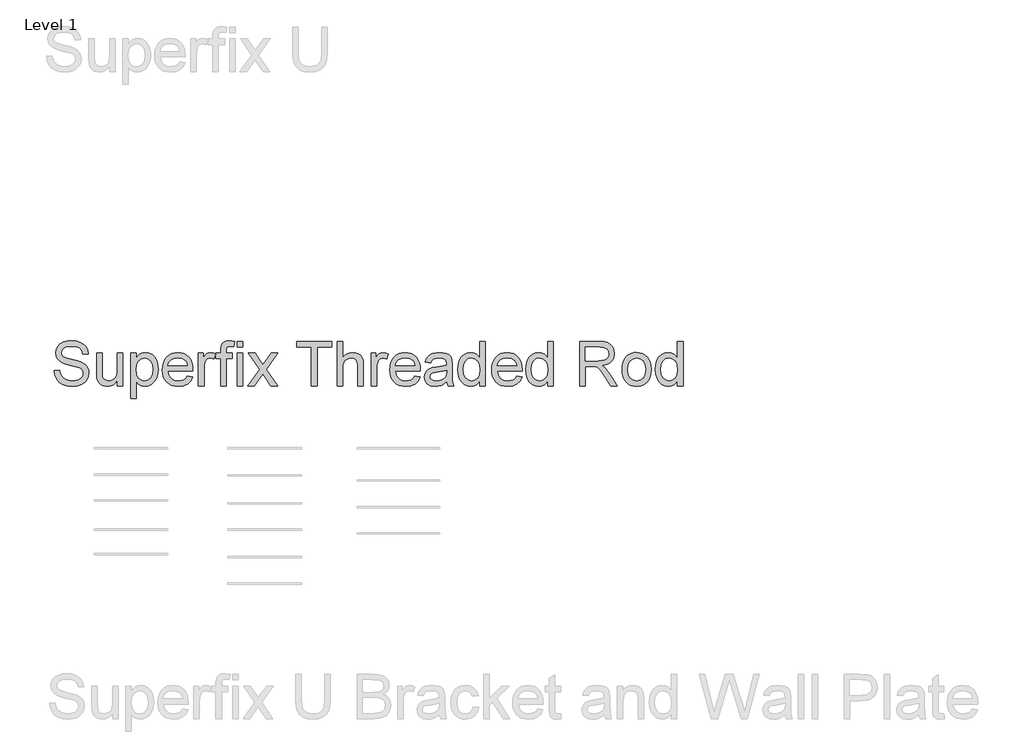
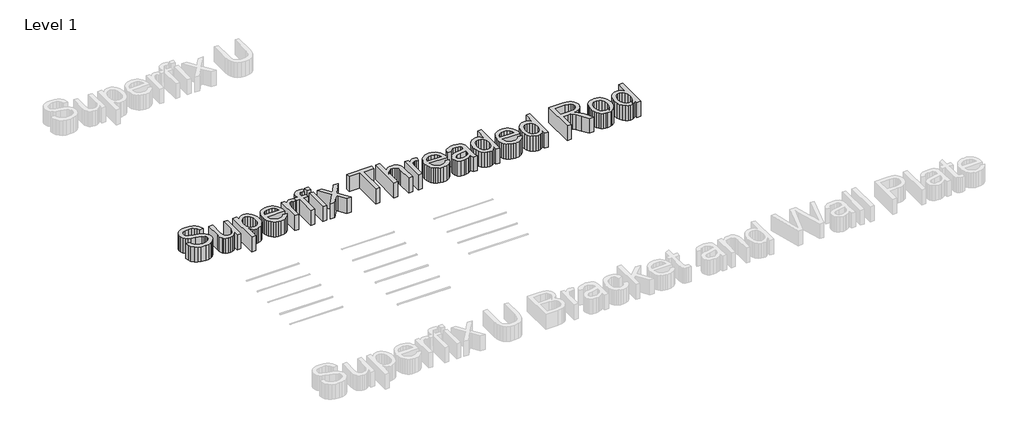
# One storey, part 24 of 32: 1 proxy.
"""IFC4 building model written with IfcOpenShell, lengths in millimetres."""

from ifc_helpers import new_model, si_unit, origin, origin_with_axes, place, context, project, spatial, polyline, outline, extrude, element, save

model = new_model("IFC4")

# Units and contexts
model_context = context("Model", 3, world=origin())
ifc_project = project(units=[si_unit("LENGTHUNIT", "METRE", prefix="MILLI")], contexts=[model_context])

# Site, building, storey
site = spatial("IfcSite", under=ifc_project)
building = spatial("IfcBuilding", under=site)
storey = spatial("IfcBuildingStorey", under=building, Name="Level 1", Elevation=0.0)

# Proxy
placement = place(None, origin())
element("IfcBuildingElementProxy", 1, Name="300mm Arial 2", ObjectType="300mm Arial 2", at=placement, inside=storey, context=model_context, shape_type="SweptSolid", body=[
    extrude(outline(polyline([(-40399.8763548, 22951.8327334), (-40362.2052385, 22951.8327334), (-40357.8826251, 22930.927839), (-40350.0651327, 22914.1248289), (-40337.8698445, 22900.7891066), (-40320.4138439, 22890.2860756), (-40299.0766881, 22883.4710616), (-40275.2379349, 22881.1993903), (-40254.250267, 22882.9192387), (-40235.8745614, 22888.0787836), (-40220.9845376, 22896.2457639), (-40210.4539155, 22906.9879182), (-40204.1907245, 22919.3211621), (-40202.1029942, 22932.2614113), (-40203.6664927, 22944.8705666), (-40208.3569881, 22955.7690707), (-40217.8851318, 22965.0672882), (-40233.961575, 22972.8755835), (-40288.8127805, 22987.2597695), (-40324.8192308, 22996.7787162), (-40347.8578407, 23005.8378103), (-40366.6106254, 23018.511345), (-40379.9003625, 23033.8704183), (-40387.8190224, 23051.5839364), (-40390.4585757, 23071.3208054), (-40387.193623, 23093.3845281), (-40377.3987649, 23113.9583287), (-40361.3315188, 23131.3959352), (-40339.249402, 23144.0510759), (-40312.7435043, 23151.7490066), (-40283.4049151, 23154.3149835), (-40251.6199108, 23151.629445), (-40223.8080319, 23143.5728293), (-40200.96256, 23130.3106834), (-40184.0767765, 23112.0085541), (-40173.3898045, 23089.8068757), (-40169.1407674, 23064.8460823), (-40206.8118838, 23064.8460823), (-40213.7280653, 23087.3236722), (-40228.1490395, 23103.5472682), (-40250.6818117, 23113.3697175), (-40281.9333872, 23116.6438672), (-40313.9207266, 23113.4065057), (-40335.8648877, 23103.694421), (-40348.5568165, 23089.4022055), (-40352.7874594, 23072.4244514), (-40349.7892212, 23057.9482949), (-40340.7945064, 23046.3048298), (-40319.5309271, 23035.8937693), (-40279.2846368, 23025.2619796), (-40237.7507595, 23015.1636189), (-40212.6244193, 23006.3528451), (-40191.1493078, 22992.686029), (-40176.1673136, 22975.8186395), (-40167.3657368, 22955.9346176), (-40164.4318779, 22933.2179044), (-40167.8071952, 22909.9953535), (-40177.9331471, 22888.15236), (-40194.3958664, 22869.3535901), (-40216.7814858, 22855.2637097), (-40243.7012508, 22846.4621329), (-40273.7664069, 22843.528274), (-40310.674168, 22846.6920592), (-40341.0520238, 22856.1834147), (-40365.249462, 22872.0391286), (-40383.6159706, 22894.2959894), (-40395.4065886, 22921.4088924), (-40399.8763548, 22951.8327334)])), origin_with_axes(), (0.0, 0.0, 1.0), 150.0),
    extrude(outline(polyline([(-39971.3674068, 22848.2371636), (-39971.3674068, 22886.2761619), (-39984.9974348, 22867.5739609), (-40000.8715429, 22854.215246), (-40018.9897311, 22846.200017), (-40039.3519995, 22843.528274), (-40057.7001141, 22845.4044722), (-40074.7790357, 22851.0330667), (-40089.1080394, 22859.4943526), (-40099.2064002, 22869.8686249), (-40110.426801, 22897.6069273), (-40112.634093, 22932.6292933), (-40112.634093, 23069.5549719), (-40074.9629767, 23069.5549719), (-40074.9629767, 22950.3612054), (-40072.6821083, 22911.9543251), (-40067.1914695, 22899.1428346), (-40057.7828875, 22889.4031588), (-40045.0817616, 22883.2503324), (-40029.7134913, 22881.1993903), (-40013.4623041, 22883.2963177), (-39998.2595807, 22889.5870998), (-39985.7240017, 22899.4923225), (-39977.474248, 22912.4325717), (-39972.8941171, 22930.1552868), (-39971.3674068, 22954.4079074), (-39971.3674068, 23069.5549719), (-39933.6962905, 23069.5549719), (-39933.6962905, 22848.2371636), (-39971.3674068, 22848.2371636)])), origin_with_axes(), (0.0, 0.0, 1.0), 150.0),
    extrude(outline(polyline([(-39881.8985056, 22763.4771519), (-39881.8985056, 23069.5549719), (-39844.2273893, 23069.5549719), (-39844.2273893, 23032.6196195), (-39831.9401307, 23050.8389754), (-39818.181344, 23063.8528009), (-39802.1416891, 23071.6610963), (-39783.0118253, 23074.2638614), (-39757.5359971, 23070.6218296), (-39735.2607423, 23059.6957344), (-39717.12416, 23042.1477632), (-39704.0643491, 23018.6401037), (-39696.1732803, 22990.8834072), (-39693.5429241, 22960.5883249), (-39696.5135712, 22928.3710592), (-39705.4255125, 22899.5567019), (-39719.9936395, 22875.607584), (-39739.9328437, 22857.9860364), (-39763.1553946, 22847.1427146), (-39787.5735621, 22843.528274), (-39804.891607, 22845.9470981), (-39820.3518478, 22853.2035705), (-39833.5864026, 22864.1572569), (-39844.2273893, 22877.6677232), (-39844.2273893, 22763.4771519), (-39881.8985056, 22763.4771519)]), holes=[polyline([(-39844.2273893, 22957.1302341), (-39840.1530962, 22923.358667), (-39827.9302169, 22899.7406429), (-39809.8948021, 22885.8347035), (-39788.3829024, 22881.1993903), (-39766.5215149, 22886.0002504), (-39748.0262476, 22900.4028305), (-39735.4170922, 22924.8853773), (-39731.2140404, 22959.9261373), (-39735.3159246, 22993.5137635), (-39747.6215774, 23017.4628813), (-39765.629401, 23031.8102792), (-39786.8377981, 23036.5927451), (-39808.1289685, 23031.5067765), (-39826.8265709, 23016.2488708), (-39839.8771847, 22991.2972744), (-39844.2273893, 22957.1302341)])]), origin_with_axes(), (0.0, 0.0, 1.0), 150.0),
    extrude(outline(polyline([(-39496.2110219, 22914.1616171), (-39459.2756696, 22909.4527276), (-39472.5838007, 22881.6224546), (-39493.8197889, 22860.8187278), (-39522.5053875, 22847.8508875), (-39558.1623499, 22843.528274), (-39581.5366521, 22845.3929759), (-39602.3633716, 22850.9870815), (-39620.6425082, 22860.3105908), (-39636.374062, 22873.3635038), (-39649.0246041, 22889.7825371), (-39658.0607056, 22909.2044072), (-39663.4823666, 22931.6291141), (-39665.2895869, 22957.0566577), (-39663.4639725, 22983.3464248), (-39657.9871292, 23006.518392), (-39648.8590572, 23026.5725592), (-39636.0797564, 23043.5089266), (-39620.3895893, 23056.9642106), (-39602.5289185, 23066.5751277), (-39582.4977438, 23072.341678), (-39560.2960654, 23074.2638614), (-39538.8094576, 23072.3462765), (-39519.3783905, 23066.5935218), (-39502.002864, 23057.0055973), (-39486.6828782, 23043.582503), (-39474.1771896, 23026.6829238), (-39465.2445549, 23006.6655448), (-39459.8849741, 22983.5303658), (-39458.0984472, 22957.2773869), (-39458.3191764, 22947.1238439), (-39627.6184705, 22947.1238439), (-39621.0977622, 22918.9256889), (-39605.950221, 22898.1955385), (-39584.0888335, 22885.4484274), (-39557.4265859, 22881.1993903), (-39537.3770171, 22883.167559), (-39520.4912336, 22889.072065), (-39506.7692351, 22899.2807904), (-39496.2110219, 22914.1616171)]), holes=[polyline([(-39627.6184705, 22984.7949602), (-39495.7695635, 22984.7949602), (-39500.8647291, 23004.6973761), (-39510.8527253, 23018.9344093), (-39532.8152804, 23032.1781611), (-39560.4432182, 23036.5927451), (-39585.8362729, 23033.070275), (-39606.8331378, 23022.5028647), (-39621.428856, 23006.0309483), (-39627.6184705, 22984.7949602)])]), origin_with_axes(), (0.0, 0.0, 1.0), 150.0),
    extrude(outline(polyline([(-39420.4273309, 22848.2371636), (-39420.4273309, 23069.5549719), (-39387.4651041, 23069.5549719), (-39387.4651041, 23036.8134743), (-39375.2882101, 23055.7961852), (-39364.0678092, 23066.9797979), (-39352.8106202, 23072.4428455), (-39340.5233615, 23074.2638614), (-39321.7613798, 23071.3575936), (-39302.7050924, 23062.6387903), (-39315.2866566, 23028.8672232), (-39328.5304085, 23034.6613646), (-39341.7741603, 23036.5927451), (-39353.0221523, 23034.734941), (-39363.0745278, 23029.1615288), (-39371.1955229, 23020.2955727), (-39376.6493734, 23008.5601371), (-39381.2295043, 22987.5172869), (-39382.7562146, 22964.5614504), (-39382.7562146, 22848.2371636), (-39420.4273309, 22848.2371636)])), origin_with_axes(), (0.0, 0.0, 1.0), 150.0),
    extrude(outline(polyline([(-39269.7428656, 22848.2371636), (-39269.7428656, 23031.8838555), (-39302.7050924, 23031.8838555), (-39302.7050924, 23069.5549719), (-39269.7428656, 23069.5549719), (-39269.7428656, 23091.8486208), (-39265.7697401, 23123.2657432), (-39258.191371, 23135.7921251), (-39246.4927235, 23145.7065449), (-39230.1219748, 23152.1628739), (-39208.5273016, 23154.3149835), (-39174.1671233, 23150.1947052), (-39179.6853532, 23114.8780337), (-39201.3903909, 23116.6438672), (-39215.7101976, 23115.0803688), (-39225.1187796, 23110.3898733), (-39230.3335069, 23101.4319467), (-39232.0717493, 23087.0661548), (-39232.0717493, 23069.5549719), (-39189.6917435, 23069.5549719), (-39189.6917435, 23031.8838555), (-39232.0717493, 23031.8838555), (-39232.0717493, 22848.2371636), (-39269.7428656, 22848.2371636)])), origin_with_axes(), (0.0, 0.0, 1.0), 150.0),
    extrude(outline(polyline([(-39156.7295167, 22848.2371636), (-39156.7295167, 23069.5549719), (-39119.0584004, 23069.5549719), (-39119.0584004, 22848.2371636), (-39156.7295167, 22848.2371636)])), origin_with_axes(), (0.0, 0.0, 1.0), 150.0),
    extrude(outline(polyline([(-39156.7295167, 23111.9349777), (-39156.7295167, 23149.606094), (-39119.0584004, 23149.606094), (-39119.0584004, 23111.9349777), (-39156.7295167, 23111.9349777)])), origin_with_axes(), (0.0, 0.0, 1.0), 150.0),
    extrude(outline(polyline([(-39086.0961736, 22848.2371636), (-39005.6035931, 22959.4846789), (-39081.3872841, 23069.5549719), (-39036.0642223, 23069.5549719), (-38999.496752, 23016.5799646), (-38982.4270274, 22991.5639889), (-38967.6381712, 23012.0182278), (-38925.9939293, 23069.5549719), (-38880.6708675, 23069.5549719), (-38960.2805313, 22959.4846789), (-38883.6139235, 22848.2371636), (-38928.9369853, 22848.2371636), (-38975.0693875, 22915.1181103), (-38983.5306734, 22927.3317925), (-39040.7731118, 22848.2371636), (-39086.0961736, 22848.2371636)])), origin_with_axes(), (0.0, 0.0, 1.0), 150.0),
    extrude(outline(polyline([(-38652.8783361, 22848.2371636), (-38652.8783361, 23111.9349777), (-38751.7650164, 23111.9349777), (-38751.7650164, 23149.606094), (-38516.3205395, 23149.606094), (-38516.3205395, 23111.9349777), (-38615.2072198, 23111.9349777), (-38615.2072198, 22848.2371636), (-38652.8783361, 22848.2371636)])), origin_with_axes(), (0.0, 0.0, 1.0), 150.0),
    extrude(outline(polyline([(-38478.6494232, 22848.2371636), (-38478.6494232, 23149.606094), (-38440.9783069, 23149.606094), (-38440.9783069, 23038.8000371), (-38427.1413454, 23054.3154602), (-38411.6029296, 23065.3979053), (-38394.3630596, 23072.0473724), (-38375.4217354, 23074.2638614), (-38352.668234, 23071.8450373), (-38333.1153059, 23064.5885649), (-38317.7194444, 23053.0646614), (-38307.4371427, 23037.8435439), (-38301.6430012, 23016.9294524), (-38299.7116208, 22988.3266273), (-38299.7116208, 22848.2371636), (-38337.3827371, 22848.2371636), (-38337.3827371, 22984.4270782), (-38340.3809753, 23008.0083141), (-38349.3756901, 23024.1583337), (-38363.8702407, 23033.4841422), (-38383.3679865, 23036.5927451), (-38399.2880798, 23034.4958177), (-38414.2332859, 23028.2050356), (-38426.612515, 23018.327404), (-38434.8346776, 23005.4699283), (-38439.4423996, 22988.3818096), (-38440.9783069, 22965.8122492), (-38440.9783069, 22848.2371636), (-38478.6494232, 22848.2371636)])), origin_with_axes(), (0.0, 0.0, 1.0), 150.0),
    extrude(outline(polyline([(-38247.9138358, 22848.2371636), (-38247.9138358, 23069.5549719), (-38214.9516091, 23069.5549719), (-38214.9516091, 23036.8134743), (-38202.774715, 23055.7961852), (-38191.5543142, 23066.9797979), (-38180.2971251, 23072.4428455), (-38168.0098665, 23074.2638614), (-38149.2478847, 23071.3575936), (-38130.1915974, 23062.6387903), (-38142.7731616, 23028.8672232), (-38156.0169134, 23034.6613646), (-38169.2606653, 23036.5927451), (-38180.5086573, 23034.734941), (-38190.5610328, 23029.1615288), (-38198.6820278, 23020.2955727), (-38204.1358784, 23008.5601371), (-38208.7160093, 22987.5172869), (-38210.2427195, 22964.5614504), (-38210.2427195, 22848.2371636), (-38247.9138358, 22848.2371636)])), origin_with_axes(), (0.0, 0.0, 1.0), 150.0),
    extrude(outline(polyline([(-37951.6952533, 22914.1616171), (-37914.759901, 22909.4527276), (-37928.0680322, 22881.6224546), (-37949.3040204, 22860.8187278), (-37977.9896189, 22847.8508875), (-38013.6465813, 22843.528274), (-38037.0208836, 22845.3929759), (-38057.847603, 22850.9870815), (-38076.1267397, 22860.3105908), (-38091.8582935, 22873.3635038), (-38104.5088356, 22889.7825371), (-38113.5449371, 22909.2044072), (-38118.966598, 22931.6291141), (-38120.7738183, 22957.0566577), (-38118.9482039, 22983.3464248), (-38113.4713607, 23006.518392), (-38104.3432887, 23026.5725592), (-38091.5639879, 23043.5089266), (-38075.8738208, 23056.9642106), (-38058.0131499, 23066.5751277), (-38037.9819753, 23072.341678), (-38015.7802969, 23074.2638614), (-37994.2936891, 23072.3462765), (-37974.862622, 23066.5935218), (-37957.4870955, 23057.0055973), (-37942.1671096, 23043.582503), (-37929.6614211, 23026.6829238), (-37920.7287864, 23006.6655448), (-37915.3692056, 22983.5303658), (-37913.5826786, 22957.2773869), (-37913.8034078, 22947.1238439), (-38083.102702, 22947.1238439), (-38076.5819936, 22918.9256889), (-38061.4344525, 22898.1955385), (-38039.5730649, 22885.4484274), (-38012.9108173, 22881.1993903), (-37992.8612486, 22883.167559), (-37975.975465, 22889.072065), (-37962.2534666, 22899.2807904), (-37951.6952533, 22914.1616171)]), holes=[polyline([(-38083.102702, 22984.7949602), (-37951.2537949, 22984.7949602), (-37956.3489606, 23004.6973761), (-37966.3369567, 23018.9344093), (-37988.2995118, 23032.1781611), (-38015.9274497, 23036.5927451), (-38041.3205044, 23033.070275), (-38062.3173693, 23022.5028647), (-38076.9130874, 23006.0309483), (-38083.102702, 22984.7949602)])]), origin_with_axes(), (0.0, 0.0, 1.0), 150.0),
    extrude(outline(polyline([(-37734.6448762, 22876.4905008), (-37752.6435028, 22861.0578511), (-37771.1755583, 22850.9594903), (-37790.664107, 22845.3860781), (-37811.5322132, 22843.528274), (-37843.0137149, 22847.9980403), (-37866.2362658, 22861.407339), (-37880.5560725, 22881.7696074), (-37885.3293414, 22907.0982828), (-37883.5267196, 22922.7148735), (-37878.1188543, 22936.8967244), (-37869.77713, 22949.0368302), (-37859.1729315, 22958.5281857), (-37832.7957925, 22970.8890207), (-37800.2014477, 22976.5544035), (-37761.6842028, 22982.5140918), (-37734.8656054, 22989.5038497), (-37734.6448762, 22997.8915592), (-37737.2384442, 23014.7037664), (-37745.0191484, 23025.703438), (-37762.4199668, 23033.8704183), (-37786.6633903, 23036.5927451), (-37809.104192, 23034.7809263), (-37824.775965, 23029.3454698), (-37835.4629369, 23019.2930943), (-37842.9493355, 23003.6305183), (-37880.6204519, 23008.3394079), (-37874.0813494, 23028.9407996), (-37864.3232795, 23045.1276074), (-37850.4357341, 23057.5068365), (-37831.5082055, 23066.6854923), (-37808.3592309, 23072.3692691), (-37781.8073479, 23074.2638614), (-37756.3407168, 23072.5899983), (-37736.1531923, 23067.5684091), (-37720.9320748, 23060.0176311), (-37710.3646645, 23050.7562019), (-37703.3565125, 23039.3058748), (-37698.8131698, 23025.1884032), (-37696.9737599, 22992.2261765), (-37696.9737599, 22945.3580103), (-37695.0607735, 22879.9118033), (-37687.5559808, 22848.2371636), (-37725.2270971, 22848.2371636), (-37734.6448762, 22876.4905008)]), holes=[polyline([(-37734.6448762, 22951.8327334), (-37795.4189818, 22940.2812388), (-37827.8293855, 22934.1743976), (-37842.5078772, 22924.2415838), (-37847.6582251, 22909.7470332), (-37844.8531249, 22898.5450264), (-37836.4378242, 22889.3663706), (-37822.5962642, 22883.2411354), (-37803.5123857, 22881.1993903), (-37783.2788759, 22883.4526675), (-37765.399811, 22890.2124992), (-37750.9052604, 22900.1729042), (-37740.8252937, 22912.0279015), (-37736.3555274, 22924.2415838), (-37734.8656054, 22941.1641555), (-37734.6448762, 22951.8327334)])]), origin_with_axes(), (0.0, 0.0, 1.0), 150.0),
    extrude(outline(polyline([(-37508.6181783, 22848.2371636), (-37508.6181783, 22883.7745643), (-37519.889163, 22866.1668123), (-37533.5421835, 22853.5898466), (-37549.57724, 22846.0436672), (-37567.9943324, 22843.528274), (-37592.3481204, 22847.1703058), (-37614.6417693, 22858.096401), (-37633.5141157, 22875.5432046), (-37647.6039961, 22898.7473615), (-37656.3779817, 22926.7707725), (-37659.3026436, 22958.6753385), (-37656.6079079, 22990.1844314), (-37648.5237011, 23018.6401037), (-37635.0592201, 23042.4236747), (-37616.2236619, 23059.9164636), (-37593.4425694, 23070.6770119), (-37568.1414851, 23074.2638614), (-37549.7105972, 23071.6978845), (-37533.4134248, 23063.9999537), (-37519.5994559, 23052.2001387), (-37508.6181783, 23037.3285091), (-37508.6181783, 23149.606094), (-37470.947062, 23149.606094), (-37470.947062, 22848.2371636), (-37508.6181783, 22848.2371636)]), holes=[polyline([(-37621.6315272, 22958.8224913), (-37617.3824902, 22924.7474215), (-37604.6353791, 22900.5131951), (-37586.1125206, 22886.0278415), (-37564.5362416, 22881.1993903), (-37542.9691596, 22885.8071123), (-37524.9153507, 22899.6302783), (-37512.6924714, 22922.9264056), (-37508.6181783, 22955.9530117), (-37512.7660478, 22992.0606296), (-37525.2096563, 23017.0949993), (-37543.7233177, 23031.7183087), (-37566.081346, 23036.5927451), (-37587.8783542, 23031.9114467), (-37605.7390251, 23017.8675515), (-37617.6584017, 22993.7436897), (-37621.6315272, 22958.8224913)])]), origin_with_axes(), (0.0, 0.0, 1.0), 150.0),
    extrude(outline(polyline([(-37259.4884912, 22914.1616171), (-37222.5531389, 22909.4527276), (-37235.8612701, 22881.6224546), (-37257.0972582, 22860.8187278), (-37285.7828568, 22847.8508875), (-37321.4398192, 22843.528274), (-37344.8141215, 22845.3929759), (-37365.6408409, 22850.9870815), (-37383.9199775, 22860.3105908), (-37399.6515314, 22873.3635038), (-37412.3020735, 22889.7825371), (-37421.338175, 22909.2044072), (-37426.7598359, 22931.6291141), (-37428.5670562, 22957.0566577), (-37426.7414418, 22983.3464248), (-37421.2645986, 23006.518392), (-37412.1365266, 23026.5725592), (-37399.3572258, 23043.5089266), (-37383.6670587, 23056.9642106), (-37365.8063878, 23066.5751277), (-37345.7752132, 23072.341678), (-37323.5735348, 23074.2638614), (-37302.086927, 23072.3462765), (-37282.6558598, 23066.5935218), (-37265.2803334, 23057.0055973), (-37249.9603475, 23043.582503), (-37237.4546589, 23026.6829238), (-37228.5220243, 23006.6655448), (-37223.1624434, 22983.5303658), (-37221.3759165, 22957.2773869), (-37221.5966457, 22947.1238439), (-37390.8959399, 22947.1238439), (-37384.3752315, 22918.9256889), (-37369.2276904, 22898.1955385), (-37347.3663028, 22885.4484274), (-37320.7040552, 22881.1993903), (-37300.6544865, 22883.167559), (-37283.7687029, 22889.072065), (-37270.0467045, 22899.2807904), (-37259.4884912, 22914.1616171)]), holes=[polyline([(-37390.8959399, 22984.7949602), (-37259.0470328, 22984.7949602), (-37264.1421984, 23004.6973761), (-37274.1301946, 23018.9344093), (-37296.0927497, 23032.1781611), (-37323.7206876, 23036.5927451), (-37349.1137423, 23033.070275), (-37370.1106071, 23022.5028647), (-37384.7063253, 23006.0309483), (-37390.8959399, 22984.7949602)])]), origin_with_axes(), (0.0, 0.0, 1.0), 150.0),
    extrude(outline(polyline([(-37047.1470036, 22848.2371636), (-37047.1470036, 22883.7745643), (-37058.4179882, 22866.1668123), (-37072.0710088, 22853.5898466), (-37088.1060652, 22846.0436672), (-37106.5231576, 22843.528274), (-37130.8769457, 22847.1703058), (-37153.1705946, 22858.096401), (-37172.0429409, 22875.5432046), (-37186.1328214, 22898.7473615), (-37194.9068069, 22926.7707725), (-37197.8314688, 22958.6753385), (-37195.1367332, 22990.1844314), (-37187.0525263, 23018.6401037), (-37173.5880453, 23042.4236747), (-37154.7524872, 23059.9164636), (-37131.9713946, 23070.6770119), (-37106.6703104, 23074.2638614), (-37088.2394224, 23071.6978845), (-37071.9422501, 23063.9999537), (-37058.1282811, 23052.2001387), (-37047.1470036, 23037.3285091), (-37047.1470036, 23149.606094), (-37009.4758873, 23149.606094), (-37009.4758873, 22848.2371636), (-37047.1470036, 22848.2371636)]), holes=[polyline([(-37160.1603525, 22958.8224913), (-37155.9113155, 22924.7474215), (-37143.1642043, 22900.5131951), (-37124.6413459, 22886.0278415), (-37103.0650668, 22881.1993903), (-37081.4979849, 22885.8071123), (-37063.444176, 22899.6302783), (-37051.2212967, 22922.9264056), (-37047.1470036, 22955.9530117), (-37051.2948731, 22992.0606296), (-37063.7384816, 23017.0949993), (-37082.252143, 23031.7183087), (-37104.6101712, 23036.5927451), (-37126.4071794, 23031.9114467), (-37144.2678503, 23017.8675515), (-37156.1872269, 22993.7436897), (-37160.1603525, 22958.8224913)])]), origin_with_axes(), (0.0, 0.0, 1.0), 150.0),
    extrude(outline(polyline([(-36830.5380848, 22848.2371636), (-36830.5380848, 23149.606094), (-36700.6757405, 23149.606094), (-36665.7729362, 23147.573546), (-36640.3798815, 23141.4759019), (-36621.8202349, 23130.2187129), (-36607.4176547, 23112.7075299), (-36598.1746196, 23090.9932951), (-36595.0936079, 23067.1269507), (-36600.1979706, 23037.4388737), (-36615.5110586, 23012.8275682), (-36627.1108378, 23002.7981853), (-36641.4927245, 22994.7829563), (-36678.6028208, 22984.7949602), (-36657.1920887, 22968.6817288), (-36626.6578831, 22929.9069665), (-36576.4052026, 22848.2371636), (-36620.18316, 22848.2371636), (-36659.3993807, 22910.7035263), (-36687.7262943, 22952.0534626), (-36707.6287102, 22971.5879965), (-36725.5445634, 22978.7616954), (-36747.3967539, 22980.0860706), (-36792.8669685, 22980.0860706), (-36792.8669685, 22848.2371636), (-36830.5380848, 22848.2371636)]), holes=[polyline([(-36792.8669685, 23017.7571869), (-36708.5484152, 23017.7571869), (-36684.3325829, 23019.0907592), (-36665.54301, 23023.0914759), (-36651.3979473, 23030.0260515), (-36641.1156455, 23040.1612004), (-36634.8524545, 23052.4208679), (-36632.7647242, 23065.7289991), (-36636.7470468, 23084.1047048), (-36648.6940146, 23098.9119551), (-36669.2494211, 23108.679222), (-36699.0570597, 23111.9349777), (-36792.8669685, 23111.9349777), (-36792.8669685, 23017.7571869)])]), origin_with_axes(), (0.0, 0.0, 1.0), 150.0),
    extrude(outline(polyline([(-36543.295823, 22958.8960677), (-36541.2586764, 22987.5586737), (-36535.1472368, 23012.2573511), (-36524.9615041, 23032.9921001), (-36510.7014782, 23049.7629205), (-36496.3448834, 23060.4820821), (-36480.4983664, 23068.1386262), (-36463.1619274, 23072.7325526), (-36444.3355663, 23074.2638614), (-36423.5525328, 23072.3991595), (-36404.7606607, 23066.8050539), (-36387.9599498, 23057.4815446), (-36373.1504002, 23044.4286316), (-36361.0631774, 23028.0877732), (-36352.4294468, 23008.9004279), (-36347.2492085, 22986.8665957), (-36345.5224624, 22961.9862765), (-36348.5758829, 22923.9288841), (-36357.7361446, 22894.9581769), (-36372.736533, 22873.2623363), (-36393.3103336, 22857.0295432), (-36417.7468951, 22846.9035913), (-36444.3355663, 22843.528274), (-36465.4221024, 22845.3860781), (-36484.3887185, 22850.9594903), (-36501.2354146, 22860.2485107), (-36515.9621907, 22873.2531392), (-36527.9206548, 22889.7526467), (-36536.4624149, 22909.526304), (-36541.587471, 22932.574111), (-36543.295823, 22958.8960677)]), holes=[polyline([(-36505.6247067, 22958.9696441), (-36501.265305, 22924.8761802), (-36488.1871001, 22900.5867715), (-36468.5054134, 22886.0462356), (-36444.3355663, 22881.1993903), (-36420.2760838, 22886.0738268), (-36400.6311853, 22900.6971361), (-36387.5529803, 22925.3084415), (-36383.1935787, 22960.1468665), (-36387.5805715, 22993.247049), (-36400.7415499, 23017.2053639), (-36420.4140395, 23031.7458998), (-36444.3355663, 23036.5927451), (-36468.5054134, 23031.7642939), (-36488.1871001, 23017.2789403), (-36501.265305, 22993.0447139), (-36505.6247067, 22958.9696441)])]), origin_with_axes(), (0.0, 0.0, 1.0), 150.0),
    extrude(outline(polyline([(-36166.5846599, 22848.2371636), (-36166.5846599, 22883.7745643), (-36177.8556446, 22866.1668123), (-36191.5086651, 22853.5898466), (-36207.5437216, 22846.0436672), (-36225.9608139, 22843.528274), (-36250.314602, 22847.1703058), (-36272.6082509, 22858.096401), (-36291.4805973, 22875.5432046), (-36305.5704777, 22898.7473615), (-36314.3444633, 22926.7707725), (-36317.2691251, 22958.6753385), (-36314.5743895, 22990.1844314), (-36306.4901827, 23018.6401037), (-36293.0257017, 23042.4236747), (-36274.1901435, 23059.9164636), (-36251.409051, 23070.6770119), (-36226.1079667, 23074.2638614), (-36207.6770788, 23071.6978845), (-36191.3799064, 23063.9999537), (-36177.5659375, 23052.2001387), (-36166.5846599, 23037.3285091), (-36166.5846599, 23149.606094), (-36128.9135436, 23149.606094), (-36128.9135436, 22848.2371636), (-36166.5846599, 22848.2371636)]), holes=[polyline([(-36279.5980088, 22958.8224913), (-36275.3489718, 22924.7474215), (-36262.6018607, 22900.5131951), (-36244.0790022, 22886.0278415), (-36222.5027232, 22881.1993903), (-36200.9356412, 22885.8071123), (-36182.8818323, 22899.6302783), (-36170.658953, 22922.9264056), (-36166.5846599, 22955.9530117), (-36170.7325294, 22992.0606296), (-36183.1761379, 23017.0949993), (-36201.6897993, 23031.7183087), (-36224.0478276, 23036.5927451), (-36245.8448358, 23031.9114467), (-36263.7055067, 23017.8675515), (-36275.6248833, 22993.7436897), (-36279.5980088, 22958.8224913)])]), origin_with_axes(), (0.0, 0.0, 1.0), 150.0),
])

save(model, "model.ifc")
